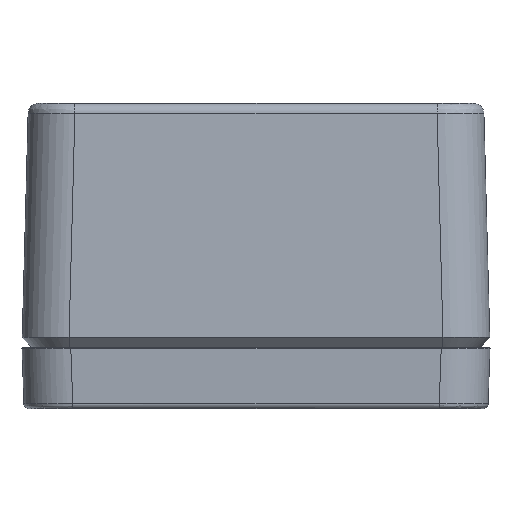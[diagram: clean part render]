
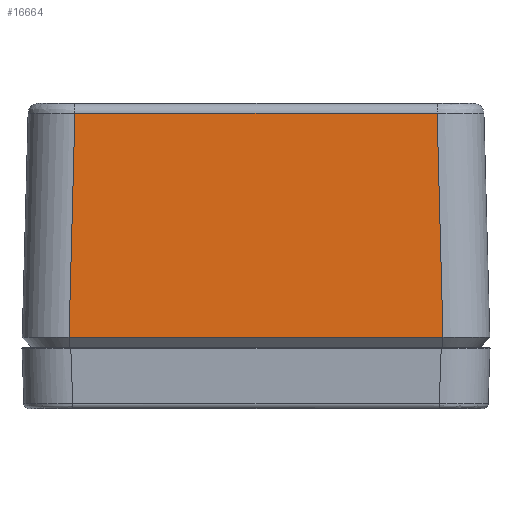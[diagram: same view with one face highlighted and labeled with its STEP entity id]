
A CAD part, left-side view. The second image highlights one B-rep face of the part: STEP entity #16664.
In plain terms, the highlighted planar face has unit normal (-1, 0, 0.026).
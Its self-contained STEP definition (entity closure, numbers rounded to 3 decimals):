
#1185 = CARTESIAN_POINT ( 'NONE',  ( -25.474, 0.398, 1. ) ) ;
#1338 = CARTESIAN_POINT ( 'NONE',  ( -25.5, 0., 0. ) ) ;
#1474 = VERTEX_POINT ( 'NONE', #11883 ) ;
#2533 = ORIENTED_EDGE ( 'NONE', *, *, #4755, .F. ) ;
#2838 = CARTESIAN_POINT ( 'NONE',  ( -25.474, -18.375, 1. ) ) ;
#3000 = CARTESIAN_POINT ( 'NONE',  ( -25.474, 17.273, 1. ) ) ;
#3079 = EDGE_CURVE ( 'NONE', #1474, #14615, #19842, .T. ) ;
#4365 = FACE_OUTER_BOUND ( 'NONE', #12949, .T. ) ;
#4755 = EDGE_CURVE ( 'NONE', #17175, #1474, #18419, .T. ) ;
#4795 = CARTESIAN_POINT ( 'NONE',  ( -25.474, -10.256, 1. ) ) ;
#4878 = CARTESIAN_POINT ( 'NONE',  ( -25.474, 13.457, 1. ) ) ;
#4956 = CARTESIAN_POINT ( 'NONE',  ( -25.474, 10.192, 1. ) ) ;
#5634 = AXIS2_PLACEMENT_3D ( 'NONE', #1338, #15736, #10492 ) ;
#6060 = ORIENTED_EDGE ( 'NONE', *, *, #3079, .F. ) ;
#6139 = VECTOR ( 'NONE', #6298, 1000. ) ;
#6187 = B_SPLINE_CURVE_WITH_KNOTS ( 'NONE', 3,
 ( #2838, #8225, #19030, #22775, #15595, #20747, #8454, #17389, #17462, #10035, #4795, #17316, #12081, #1185, #13883, #11843, #4956, #4878, #9953, #3000, #22461, #11768 ),
 .UNSPECIFIED., .F., .F.,
 ( 4, 3, 3, 3, 3, 3, 3, 4 ),
 ( -0.002, -0.001, 0., 0.003, 0.014, 0.024, 0.033, 0.035 ),
 .UNSPECIFIED. ) ;
#6298 = DIRECTION ( 'NONE',  ( 0., -1., 0. ) ) ;
#8105 = CARTESIAN_POINT ( 'NONE',  ( -25.474, 18.375, 1. ) ) ;
#8225 = CARTESIAN_POINT ( 'NONE',  ( -25.474, -18.142, 1. ) ) ;
#8454 = CARTESIAN_POINT ( 'NONE',  ( -25.474, -16.722, 1. ) ) ;
#8977 = DIRECTION ( 'NONE',  ( 0.026, -0.026, 0.999 ) ) ;
#9280 = EDGE_CURVE ( 'NONE', #19097, #17175, #6187, .T. ) ;
#9953 = CARTESIAN_POINT ( 'NONE',  ( -25.474, 16.722, 1. ) ) ;
#10035 = CARTESIAN_POINT ( 'NONE',  ( -25.474, -13.951, 1. ) ) ;
#10492 = DIRECTION ( 'NONE',  ( -0.026, 0., -1. ) ) ;
#11768 = CARTESIAN_POINT ( 'NONE',  ( -25.474, 18.375, 1. ) ) ;
#11843 = CARTESIAN_POINT ( 'NONE',  ( -25.474, 6.927, 1. ) ) ;
#11883 = CARTESIAN_POINT ( 'NONE',  ( -24.897, 17.799, 23.026 ) ) ;
#12081 = CARTESIAN_POINT ( 'NONE',  ( -25.474, -2.867, 1. ) ) ;
#12227 = VECTOR ( 'NONE', #18580, 1000. ) ;
#12378 = ORIENTED_EDGE ( 'NONE', *, *, #16001, .F. ) ;
#12949 = EDGE_LOOP ( 'NONE', ( #2533, #13517, #12378, #6060 ) ) ;
#13280 = CARTESIAN_POINT ( 'NONE',  ( -25.474, -18.375, 1. ) ) ;
#13517 = ORIENTED_EDGE ( 'NONE', *, *, #9280, .F. ) ;
#13580 = CARTESIAN_POINT ( 'NONE',  ( -24.897, -0.056, 23.026 ) ) ;
#13883 = CARTESIAN_POINT ( 'NONE',  ( -25.474, 3.663, 1. ) ) ;
#14524 = CARTESIAN_POINT ( 'NONE',  ( -24.897, -17.799, 23.026 ) ) ;
#14615 = VERTEX_POINT ( 'NONE', #16353 ) ;
#15595 = CARTESIAN_POINT ( 'NONE',  ( -25.474, -17.358, 1. ) ) ;
#15664 = PLANE ( 'NONE',  #5634 ) ;
#15736 = DIRECTION ( 'NONE',  ( 1., 0., -0.026 ) ) ;
#16001 = EDGE_CURVE ( 'NONE', #14615, #19097, #18076, .T. ) ;
#16114 = CARTESIAN_POINT ( 'NONE',  ( -25.474, 18.375, 1. ) ) ;
#16353 = CARTESIAN_POINT ( 'NONE',  ( -24.897, -17.799, 23.026 ) ) ;
#16664 = ADVANCED_FACE ( 'NONE', ( #4365 ), #15664, .F. ) ;
#17175 = VERTEX_POINT ( 'NONE', #8105 ) ;
#17316 = CARTESIAN_POINT ( 'NONE',  ( -25.474, -6.561, 1. ) ) ;
#17389 = CARTESIAN_POINT ( 'NONE',  ( -25.474, -15.798, 1. ) ) ;
#17462 = CARTESIAN_POINT ( 'NONE',  ( -25.474, -14.874, 1. ) ) ;
#18076 = LINE ( 'NONE', #14524, #12227 ) ;
#18419 = LINE ( 'NONE', #16114, #21504 ) ;
#18580 = DIRECTION ( 'NONE',  ( -0.026, -0.026, -0.999 ) ) ;
#19030 = CARTESIAN_POINT ( 'NONE',  ( -25.474, -17.909, 1. ) ) ;
#19097 = VERTEX_POINT ( 'NONE', #13280 ) ;
#19842 = LINE ( 'NONE', #13580, #6139 ) ;
#20747 = CARTESIAN_POINT ( 'NONE',  ( -25.474, -17.04, 1. ) ) ;
#21504 = VECTOR ( 'NONE', #8977, 1000. ) ;
#22461 = CARTESIAN_POINT ( 'NONE',  ( -25.474, 17.824, 1. ) ) ;
#22775 = CARTESIAN_POINT ( 'NONE',  ( -25.474, -17.676, 1. ) ) ;
